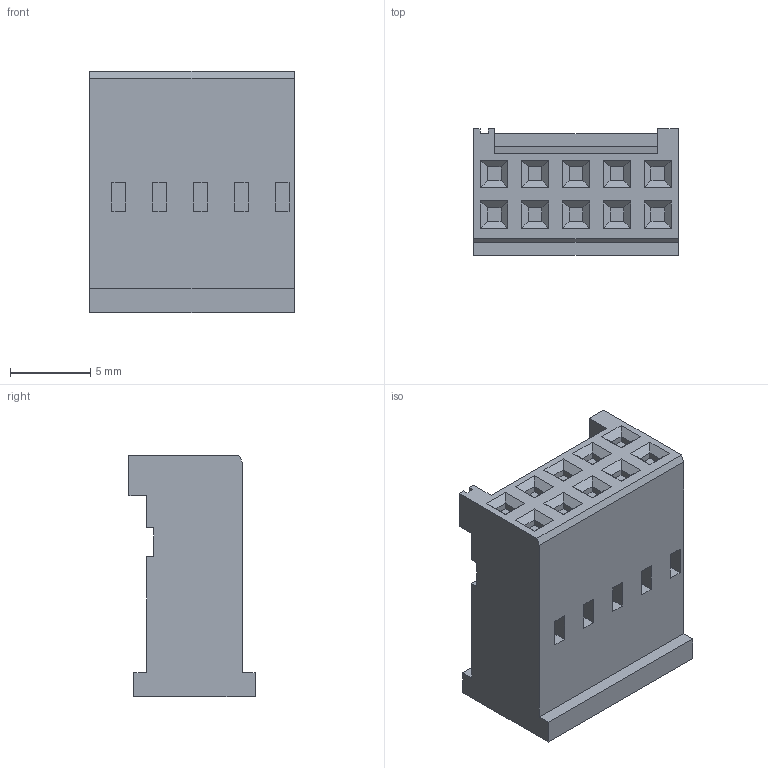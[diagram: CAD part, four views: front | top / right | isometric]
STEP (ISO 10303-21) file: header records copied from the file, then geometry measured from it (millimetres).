
FILE_DESCRIPTION((''),'2;1');
FILE_NAME('C-281839-5','2016-07-06T',('workeradm'),('Tyco Electronics Ltd.'),'CREO PARAMETRIC BY PTC INC, 2016050','CREO PARAMETRIC BY PTC INC, 2016050','');
FILE_SCHEMA(('AUTOMOTIVE_DESIGN { 1 0 10303 214 1 1 1 1 }'));
Length unit declared in the file: millimetre
Products named in the file (1): C-281839-5
Bounding box: 12.7 x 7.84 x 15 mm (x, y, z)
Volume: 1095.4 mm3; surface area: 918.8 mm2
Topology: 1 solids, 1 shells, 216 faces, 510 edges, 326 vertices
Faces by surface type: plane 216
Entity records: 6194 total; most frequent: CARTESIAN_POINT 1054, ORIENTED_EDGE 1020, DIRECTION 942, VECTOR 510, LINE 510, EDGE_CURVE 510, VERTEX_POINT 326, EDGE_LOOP 246
